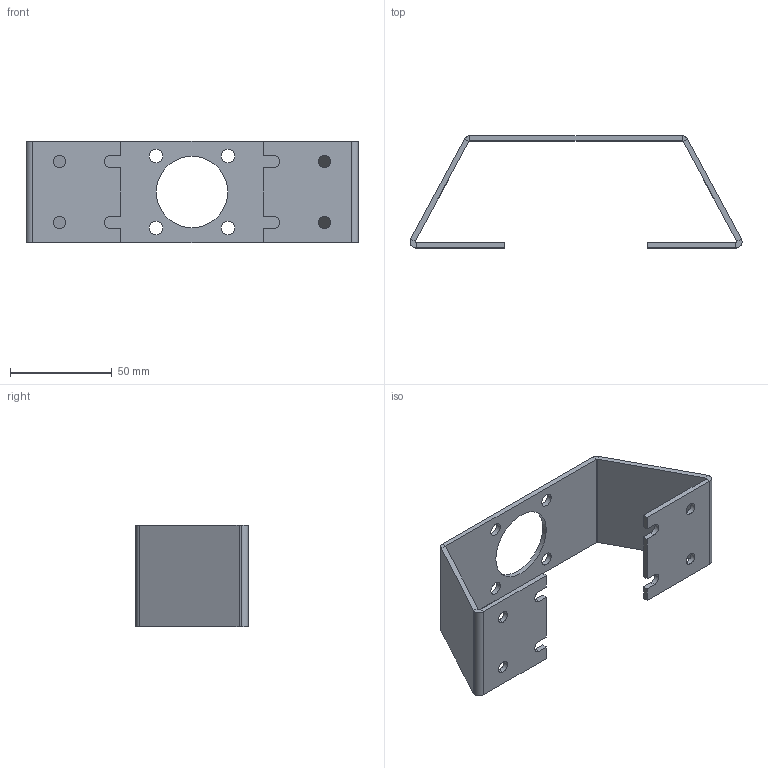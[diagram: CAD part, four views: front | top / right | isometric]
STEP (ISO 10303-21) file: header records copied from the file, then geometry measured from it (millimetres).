
FILE_DESCRIPTION (( 'STEP AP203' ), '1' );
FILE_NAME ('405.STEP', '2013-09-24T09:43:59', ( 'DAO' ), ( 'Microsoft' ), 'SwSTEP 2.0', 'SolidWorks 2012', '' );
FILE_SCHEMA (( 'CONFIG_CONTROL_DESIGN' ));
Length unit declared in the file: millimetre
Products named in the file (1): 405
Bounding box: 162.97 x 55 x 50 mm (x, y, z)
Volume: 35736.9 mm3; surface area: 31209.3 mm2
Topology: 1 solids, 1 shells, 74 faces, 184 edges, 112 vertices
Faces by surface type: plane 42, cylinder 32
Entity records: 2289 total; most frequent: DIRECTION 398, CARTESIAN_POINT 371, ORIENTED_EDGE 368, EDGE_CURVE 184, AXIS2_PLACEMENT_3D 139, VECTOR 120, LINE 120, VERTEX_POINT 112
